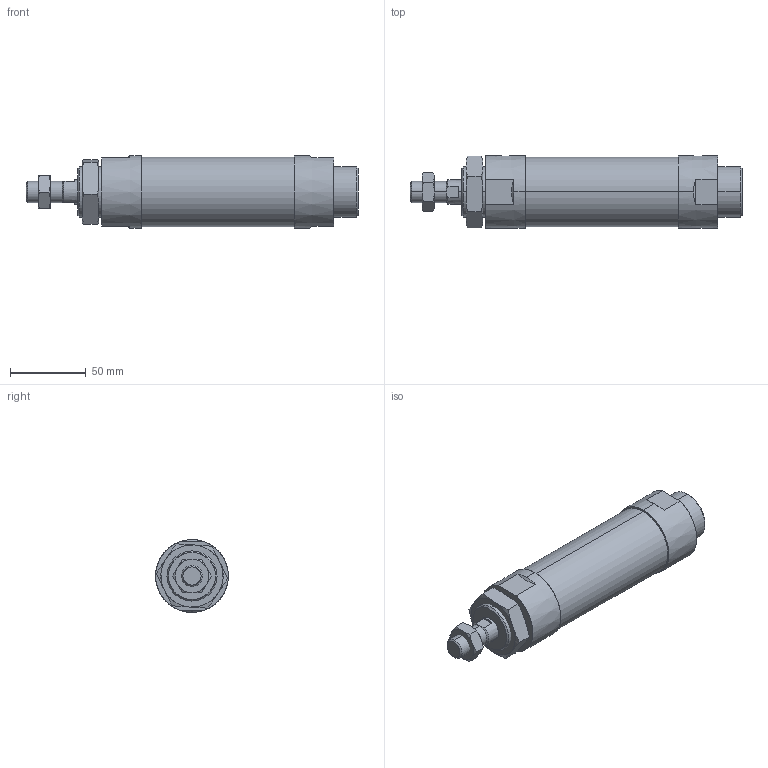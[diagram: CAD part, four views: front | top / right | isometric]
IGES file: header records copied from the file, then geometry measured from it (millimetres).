
Start section: SolidWorks IGES file using analytic representation for surfaces
Global section: file name: C:\Users\Toshiba\Desktop\J#2-40-50-N.IGS; native system: SolidWorks 2014; preprocessor: SolidWorks 2014; author: Toshiba; date: 160308.155420; units: millimetre
Bounding box: 219 x 48 x 48 mm (x, y, z)
Surface area: 37661.8 mm2 (no closed solid volume)
Topology: 0 solids, 0 shells, 94 faces, 1846 edges, 1842 vertices
Faces by surface type: bspline 57, revolution 37
